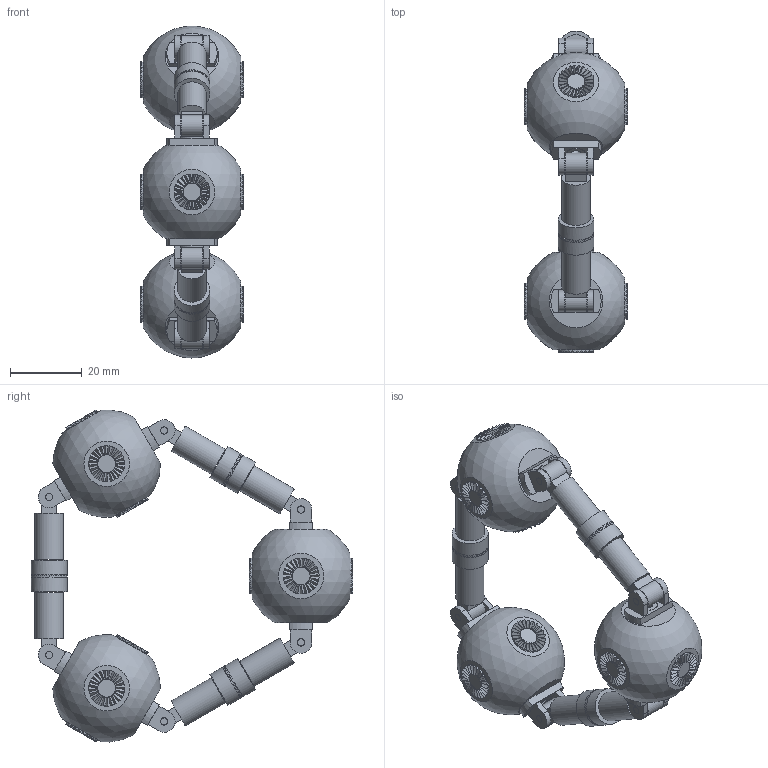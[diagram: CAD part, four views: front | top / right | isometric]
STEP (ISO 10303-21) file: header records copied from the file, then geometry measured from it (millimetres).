
FILE_DESCRIPTION(('Open CASCADE Model'),'2;1');
FILE_NAME('Open CASCADE Shape Model','2026-10-23T00:30:27',('Author'),( 'Open CASCADE'),'Open CASCADE STEP processor 7.9','Open CASCADE 7.9' ,'Unknown');
FILE_SCHEMA(('AUTOMOTIVE_DESIGN { 1 0 10303 214 1 1 1 1 }'));
Length unit declared in the file: millimetre
Products named in the file (28): ring3_triangle; bot0_body; bot0_turret_top; bot0_pin_top; bot0_arm_top; bot0_tip_top; bot0_turret_bottom; bot0_pin_bottom; bot0_arm_bottom; bot0_tip_bottom; bot1_body; bot1_turret_top; bot1_pin_top; bot1_arm_top; bot1_tip_top; bot1_turret_bottom; bot1_pin_bottom; bot1_arm_bottom; bot1_tip_bottom; bot2_body; bot2_turret_top; bot2_pin_top; bot2_arm_top; bot2_tip_top; bot2_turret_bottom; bot2_pin_bottom; bot2_arm_bottom; bot2_tip_bottom
Assembly tree (27 placements, depth 2):
  ring3_triangle
    bot0_body
    bot0_turret_top
    bot0_pin_top
    bot0_arm_top
    bot0_tip_top
    bot0_turret_bottom
    bot0_pin_bottom
    bot0_arm_bottom
    bot0_tip_bottom
    bot1_body
    bot1_turret_top
    bot1_pin_top
    bot1_arm_top
    bot1_tip_top
    bot1_turret_bottom
    bot1_pin_bottom
    bot1_arm_bottom
    bot1_tip_bottom
    bot2_body
    bot2_turret_top
    bot2_pin_top
    bot2_arm_top
    bot2_tip_top
    bot2_turret_bottom
    bot2_pin_bottom
    bot2_arm_bottom
    bot2_tip_bottom
Bounding box: 28.8 x 89.55 x 92.44 mm (x, y, z)
Volume: 18623.7 mm3; surface area: 28608 mm2
Topology: 27 solids, 27 shells, 2640 faces, 6396 edges, 3894 vertices
Faces by surface type: cylinder 1416, bspline 864, plane 354, sphere 6
Full cylindrical faces by diameter (mm): 2 x6, 2.04 x18, 2.6 x6, 3.8 x12, 5 x12, 5.2 x6, 6 x6, 8 x6, 10 x18, 14.967 x6
Entity records: 200259 total; most frequent: CARTESIAN_POINT 92305, DIRECTION 12917, ORIENTED_EDGE 12792, PCURVE 12792, DEFINITIONAL_REPRESENTATION 12792, B_SPLINE_CURVE_WITH_KNOTS 11502, EDGE_CURVE 6396, SURFACE_CURVE 6288
